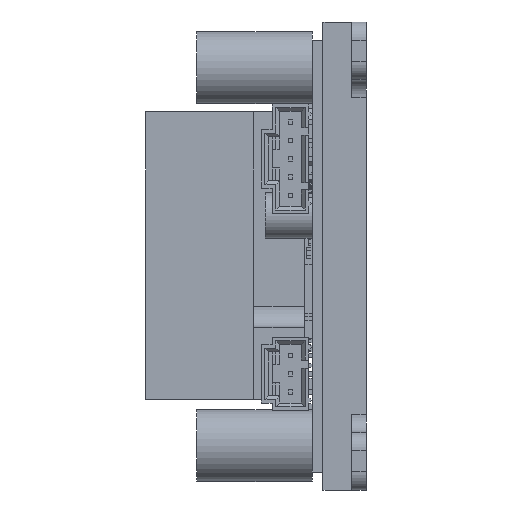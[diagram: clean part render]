
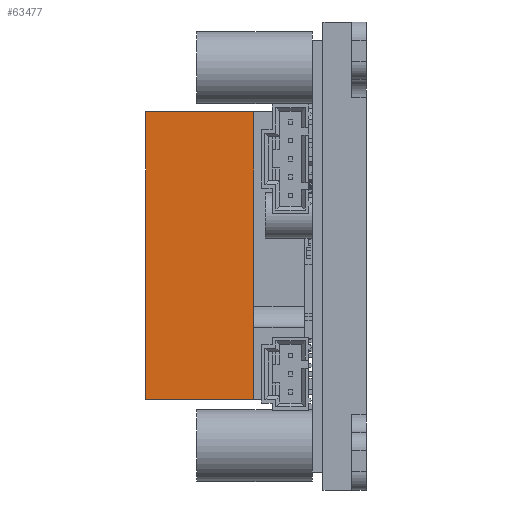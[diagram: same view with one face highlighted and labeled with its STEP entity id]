
A CAD part, left-side view. The second image highlights one B-rep face of the part: STEP entity #63477.
In plain terms, the highlighted planar face has unit normal (-1, 0, 0).
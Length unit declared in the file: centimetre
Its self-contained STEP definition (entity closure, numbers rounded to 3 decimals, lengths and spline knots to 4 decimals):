
#33161=VECTOR('',#69291,1.);
#33215=VECTOR('',#69353,1.);
#33302=VECTOR('',#69480,1.);
#33315=VECTOR('',#69518,1.);
#36391=LINE('',#79197,#33161);
#36445=LINE('',#79305,#33215);
#36532=LINE('',#79469,#33302);
#36545=LINE('',#79508,#33315);
#39610=PLANE('',#65452);
#40676=VERTEX_POINT('',#79196);
#40677=VERTEX_POINT('',#79198);
#40723=VERTEX_POINT('',#79304);
#40724=VERTEX_POINT('',#79306);
#44835=EDGE_CURVE('',#40677,#40676,#36391,.T.);
#44899=EDGE_CURVE('',#40723,#40724,#36445,.T.);
#44995=EDGE_CURVE('',#40676,#40724,#36532,.T.);
#45013=EDGE_CURVE('',#40723,#40677,#36545,.T.);
#50042=ORIENTED_EDGE('',*,*,#45013,.T.);
#50043=ORIENTED_EDGE('',*,*,#44835,.T.);
#50044=ORIENTED_EDGE('',*,*,#44995,.T.);
#50045=ORIENTED_EDGE('',*,*,#44899,.F.);
#59109=EDGE_LOOP('',(#50042,#50043,#50044,#50045));
#61296=FACE_BOUND('',#59109,.T.);
#63477=ADVANCED_FACE('',(#61296),#39610,.T.);
#65452=AXIS2_PLACEMENT_3D('',#79510,#69520,$);
#69291=DIRECTION('',(0.,1.,0.));
#69353=DIRECTION('',(0.,1.,0.));
#69480=DIRECTION('',(0.,0.,-1.));
#69518=DIRECTION('',(0.,0.,1.));
#69520=DIRECTION('',(-1.,0.,0.));
#79196=CARTESIAN_POINT('',(-3.,2.2,2.));
#79197=CARTESIAN_POINT('',(-3.,0.,2.));
#79198=CARTESIAN_POINT('',(-3.,0.7,2.));
#79304=CARTESIAN_POINT('',(-3.,0.7,-2.));
#79305=CARTESIAN_POINT('',(-3.,0.,-2.));
#79306=CARTESIAN_POINT('',(-3.,2.2,-2.));
#79469=CARTESIAN_POINT('',(-3.,2.2,-2.));
#79508=CARTESIAN_POINT('',(-3.,0.7,-2.7696));
#79510=CARTESIAN_POINT('',(-3.,0.,0.));
